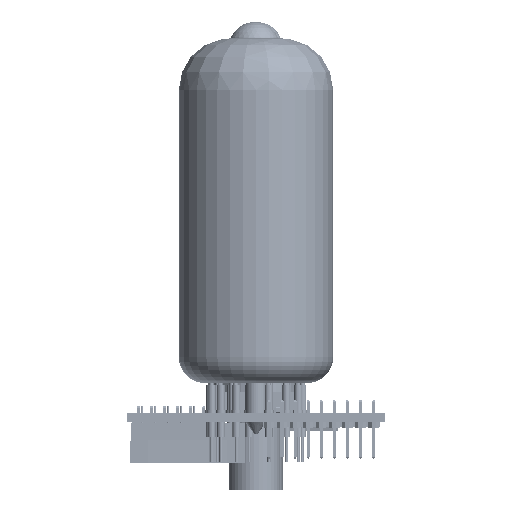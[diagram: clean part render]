
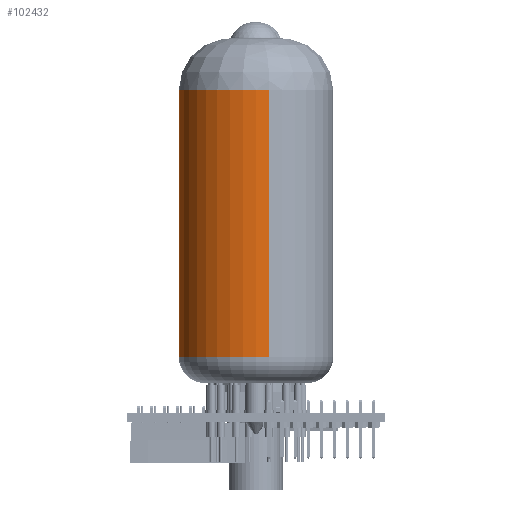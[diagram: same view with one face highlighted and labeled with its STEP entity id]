
A CAD part, left-side view. The second image highlights one B-rep face of the part: STEP entity #102432.
In plain terms, the highlighted cylindrical face has radius 15 mm (diameter 30 mm), a partial arc.
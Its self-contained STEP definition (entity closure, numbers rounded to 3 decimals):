
#102348 = VERTEX_POINT('',#102349);
#102349 = CARTESIAN_POINT('',(4.228,22.395,
    10.809));
#102356 = EDGE_CURVE('',#102357,#102348,#102359,.T.);
#102357 = VERTEX_POINT('',#102358);
#102358 = CARTESIAN_POINT('',(33.772,27.605,
    10.809));
#102359 = CIRCLE('',#102360,15.);
#102360 = AXIS2_PLACEMENT_3D('',#102361,#102362,#102363);
#102361 = CARTESIAN_POINT('',(19.,25.,
    10.809));
#102362 = DIRECTION('',(0.,0.,1.));
#102363 = DIRECTION('',(0.985,0.174,
    0.));
#102380 = EDGE_CURVE('',#102381,#102383,#102385,.T.);
#102381 = VERTEX_POINT('',#102382);
#102382 = CARTESIAN_POINT('',(4.228,22.395,
    62.809));
#102383 = VERTEX_POINT('',#102384);
#102384 = CARTESIAN_POINT('',(33.772,27.605,
    62.809));
#102385 = CIRCLE('',#102386,15.);
#102386 = AXIS2_PLACEMENT_3D('',#102387,#102388,#102389);
#102387 = CARTESIAN_POINT('',(19.,25.,
    62.809));
#102388 = DIRECTION('',(0.,0.,-1.));
#102389 = DIRECTION('',(0.985,0.174,
    0.));
#102432 = ADVANCED_FACE('',(#102433),#102449,.T.);
#102433 = FACE_BOUND('',#102434,.T.);
#102434 = EDGE_LOOP('',(#102435,#102436,#102442,#102443));
#102435 = ORIENTED_EDGE('',*,*,#102380,.T.);
#102436 = ORIENTED_EDGE('',*,*,#102437,.T.);
#102437 = EDGE_CURVE('',#102383,#102357,#102438,.T.);
#102438 = LINE('',#102439,#102440);
#102439 = CARTESIAN_POINT('',(33.772,27.605,
    72.809));
#102440 = VECTOR('',#102441,1.);
#102441 = DIRECTION('',(0.,0.,-1.));
#102442 = ORIENTED_EDGE('',*,*,#102356,.T.);
#102443 = ORIENTED_EDGE('',*,*,#102444,.F.);
#102444 = EDGE_CURVE('',#102381,#102348,#102445,.T.);
#102445 = LINE('',#102446,#102447);
#102446 = CARTESIAN_POINT('',(4.228,22.395,
    72.809));
#102447 = VECTOR('',#102448,1.);
#102448 = DIRECTION('',(0.,0.,-1.));
#102449 = CYLINDRICAL_SURFACE('',#102450,15.);
#102450 = AXIS2_PLACEMENT_3D('',#102451,#102452,#102453);
#102451 = CARTESIAN_POINT('',(19.,25.,
    72.809));
#102452 = DIRECTION('',(0.,0.,-1.));
#102453 = DIRECTION('',(-0.985,-0.174,
    0.));
